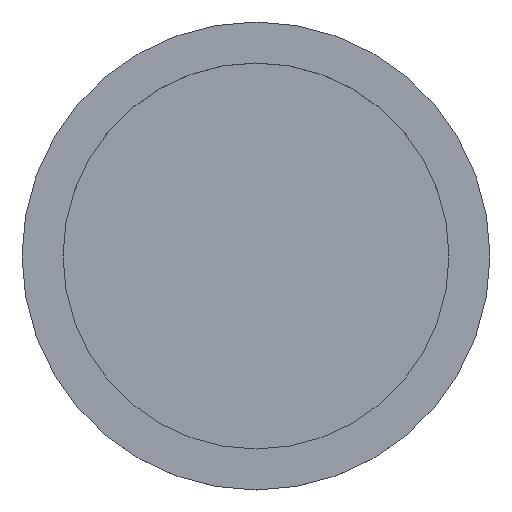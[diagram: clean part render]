
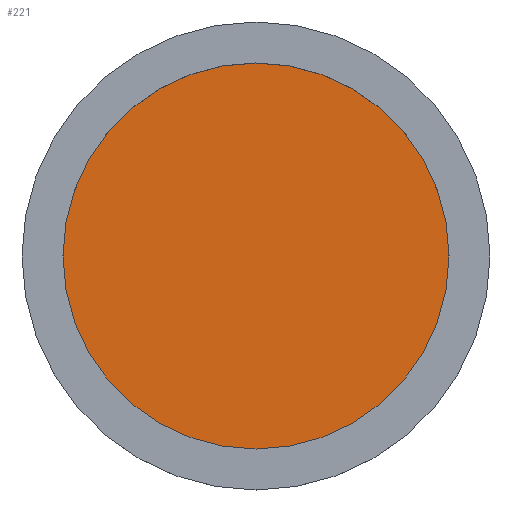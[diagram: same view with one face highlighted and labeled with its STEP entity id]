
A CAD part, top view. The second image highlights one B-rep face of the part: STEP entity #221.
In plain terms, the highlighted planar face has unit normal (0, 0, 1).
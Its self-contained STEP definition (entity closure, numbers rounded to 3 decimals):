
#190=CARTESIAN_POINT('',(115.5,0.,10.0));
#191=VERTEX_POINT('',#190);
#192=CARTESIAN_POINT('',(0.0,0.0,10.0));
#193=DIRECTION('',(0.0,0.0,1.0));
#194=DIRECTION('',(-1.0,0.0,0.0));
#195=AXIS2_PLACEMENT_3D('',#192,#193,#194);
#196=CIRCLE('',#195,115.5);
#197=EDGE_CURVE('',#191,#191,#196,.T.);
#213=CARTESIAN_POINT('',(0.0,0.0,10.0));
#214=DIRECTION('',(0.0,0.0,-1.0));
#215=DIRECTION('',(-1.0,0.0,0.0));
#216=AXIS2_PLACEMENT_3D('',#213,#214,#215);
#217=PLANE('',#216);
#218=ORIENTED_EDGE('',*,*,#197,.T.);
#219=EDGE_LOOP('',(#218));
#220=FACE_OUTER_BOUND('',#219,.T.);
#221=ADVANCED_FACE('',(#220),#217,.F.);
